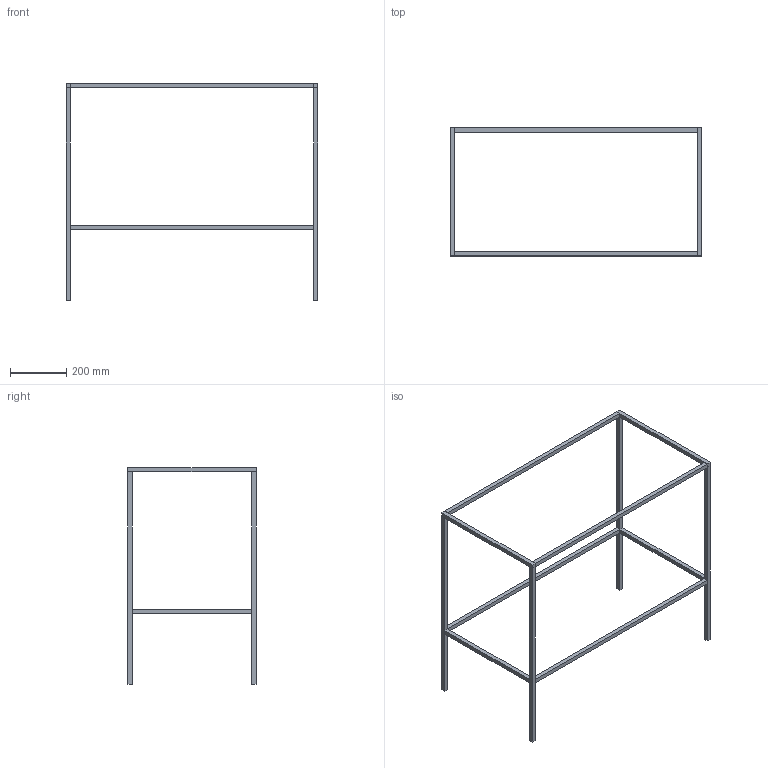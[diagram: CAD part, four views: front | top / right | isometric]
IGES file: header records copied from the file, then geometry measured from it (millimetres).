
Start section: START RECORD GO HERE.
Global section: file name: 8913_3D.igs; native system: DASSAULT SYSTEMES CATIA V5 R19 - www.3ds.com; preprocessor: CATIA Version 5 Release 19 SP 5 ; author: gioge; organization: LAPTOP-G94B6G74; date: 20201024.132006; units: millimetre
Bounding box: 895 x 455 x 770 mm (x, y, z)
Surface area: 499800 mm2 (no closed solid volume)
Topology: 0 solids, 0 shells, 72 faces, 288 edges, 288 vertices
Faces by surface type: plane 72
